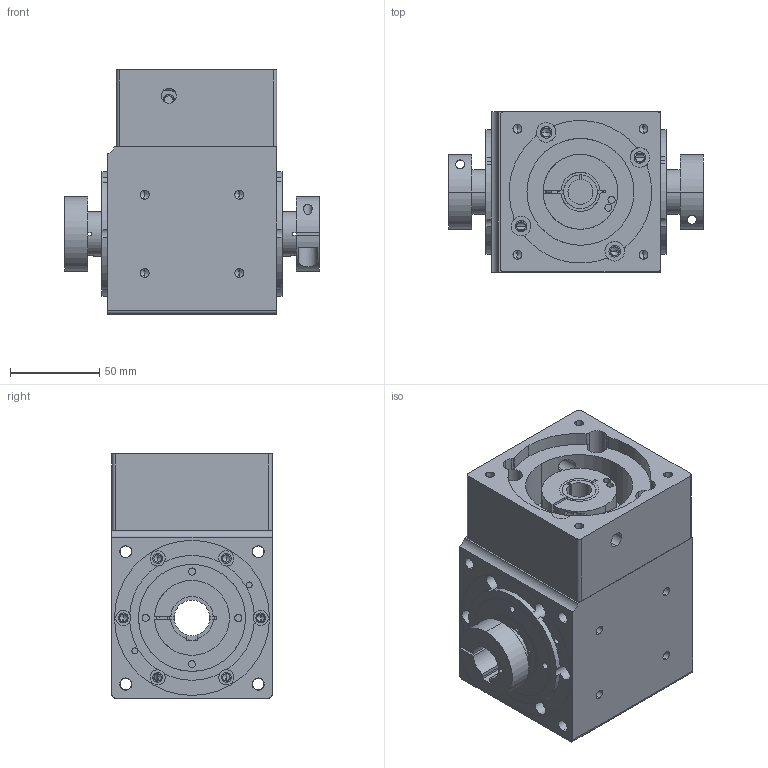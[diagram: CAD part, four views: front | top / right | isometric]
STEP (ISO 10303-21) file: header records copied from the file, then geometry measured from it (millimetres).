
FILE_DESCRIPTION (( 'STEP AP203' ), '1' );
FILE_NAME ('ZK090双孔输出 （19-80-100）.STEP', '2023-05-29T01:58:05', ( 'User' ), ( 'China' ), 'SwSTEP 2.0', 'SolidWorks 2015', '' );
FILE_SCHEMA (( 'CONFIG_CONTROL_DESIGN' ));
Length unit declared in the file: millimetre
Products named in the file (13): PVFD090標杶2; 25-40-7蚐猾; PVFDo9o眊极; ZK090怀堤粣-湍瑩羞; PVFD090͹̨; 19-14粣杶; deep groove ball bearings gb_Rolling bearings 6005 GB 276-94; PVFD090綴楊擘(80-100); tapered roller bearings gb_Rolling bearings 32005 GB 297-94; ZK090双孔输出  （19-80-100）; PVFD090標杶; PVFD090蹟譫; PVFD090输入轴
Assembly tree (17 placements, depth 2):
  ZK090双孔输出  （19-80-100）
    PVFDo9o眊极
    PVFD090͹̨  x2
    deep groove ball bearings gb_Rolling bearings 6005 GB 276-94  x2
    tapered roller bearings gb_Rolling bearings 32005 GB 297-94
    PVFD090標杶
    PVFD090蹟譫  x2
    PVFD090输入轴
    PVFD090標杶2  x2
    25-40-7蚐猾  x2
    ZK090怀堤粣-湍瑩羞
    19-14粣杶
    PVFD090綴楊擘(80-100)
Bounding box: 143 x 90 x 137 mm (x, y, z)
Volume: 824016.6 mm3; surface area: 256282.1 mm2
Topology: 17 solids, 17 shells, 1052 faces, 3559 edges, 2320 vertices
Faces by surface type: cylinder 403, torus 224, plane 221, cone 128, sphere 76
Entity records: 34588 total; most frequent: CARTESIAN_POINT 10903, ORIENTED_EDGE 4956, DIRECTION 4531, EDGE_CURVE 2478, AXIS2_PLACEMENT_3D 1975, VERTEX_POINT 1631, CIRCLE 1148, EDGE_LOOP 979
